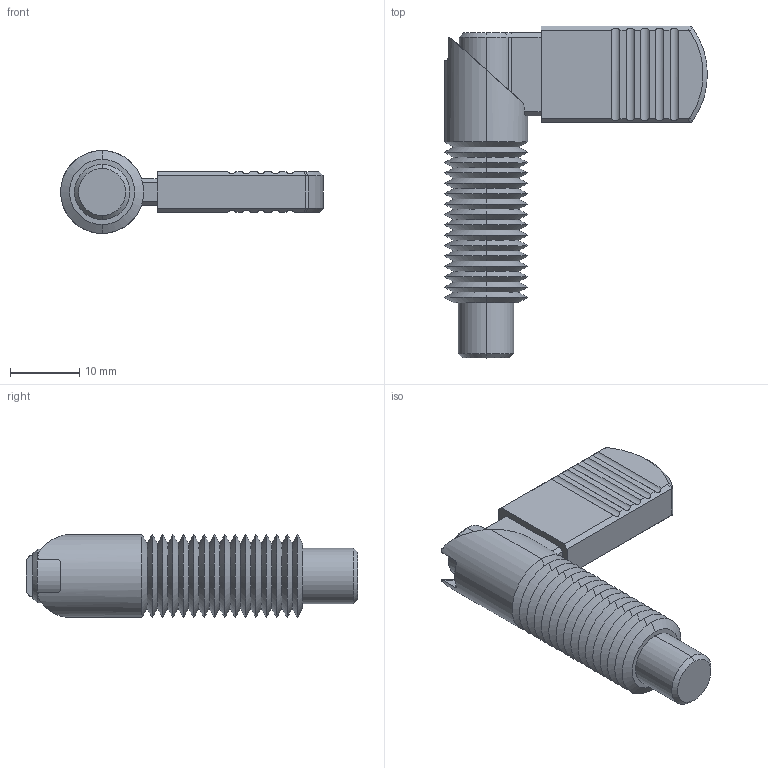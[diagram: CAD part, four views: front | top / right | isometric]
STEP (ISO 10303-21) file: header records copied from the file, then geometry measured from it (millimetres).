
FILE_DESCRIPTION (( 'STEP AP203' ), '1' );
FILE_NAME ('32501.W0365.step', '2016-02-10T17:22:31', ( 'User' ), ( '' ), 'SwSTEP 2.0', 'SolidWorks 2009', '' );
FILE_SCHEMA (( 'CONFIG_CONTROL_DESIGN' ));
Length unit declared in the file: millimetre
Products named in the file (4): Part1_32501.W0365; 32501.W0365; Part2_32501.W0365; Part3_32501.W0365
Assembly tree (3 placements, depth 2):
  32501.W0365
    Part1_32501.W0365
    Part3_32501.W0365
    Part2_32501.W0365
Bounding box: 38 x 48 x 12 mm (x, y, z)
Volume: 4966.8 mm3; surface area: 6560.4 mm2
Topology: 3 solids, 3 shells, 192 faces, 457 edges, 275 vertices
Faces by surface type: cone 79, cylinder 55, plane 54, bspline 4
Entity records: 6004 total; most frequent: CARTESIAN_POINT 1336, ORIENTED_EDGE 914, DIRECTION 876, EDGE_CURVE 457, AXIS2_PLACEMENT_3D 315, VERTEX_POINT 275, LINE 246, VECTOR 246
